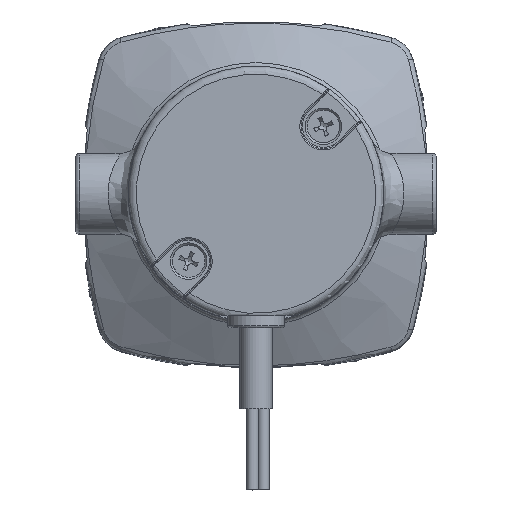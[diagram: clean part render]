
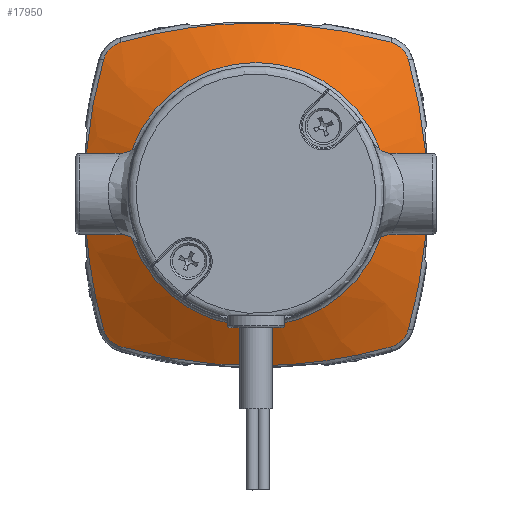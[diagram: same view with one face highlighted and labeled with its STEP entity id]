
A CAD part, top view. The second image highlights one B-rep face of the part: STEP entity #17950.
In plain terms, the highlighted conical face has half-angle 61.049 degrees and reference radius 44.744 mm.
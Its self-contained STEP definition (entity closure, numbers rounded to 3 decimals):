
#17844=CARTESIAN_POINT('',(0.,0.,47.174));
#17845=DIRECTION('',(0.,0.,-1.0));
#17846=DIRECTION('',(1.0,0.0,0.0));
#17847=AXIS2_PLACEMENT_3D('',#17844,#17845,#17846);
#17848=CONICAL_SURFACE('',#17847,44.744,61.049);
#17849=CARTESIAN_POINT('',(37.57,-33.292,44.157));
#17850=VERTEX_POINT('',#17849);
#17851=CARTESIAN_POINT('',(33.292,-37.57,44.157));
#17852=VERTEX_POINT('',#17851);
#17853=CARTESIAN_POINT('',(37.57,-33.292,44.157));
#17854=CARTESIAN_POINT('',(37.329,-34.142,43.944));
#17855=CARTESIAN_POINT('',(36.311,-36.062,43.636));
#17856=CARTESIAN_POINT('',(34.425,-37.249,43.874));
#17857=CARTESIAN_POINT('',(33.292,-37.57,44.157));
#17858=B_SPLINE_CURVE_WITH_KNOTS('',3,(#17853,#17854,#17855,#17856,#17857),.UNSPECIFIED.,.F.,.U.,(4,1,4),(0.,0.269,0.627),.UNSPECIFIED.);
#17859=EDGE_CURVE('',#17850,#17852,#17858,.T.);
#17860=ORIENTED_EDGE('',*,*,#17859,.F.);
#17861=CARTESIAN_POINT('',(37.57,33.292,44.157));
#17862=VERTEX_POINT('',#17861);
#17863=CARTESIAN_POINT('',(37.57,33.292,44.157));
#17864=CARTESIAN_POINT('',(39.281,27.247,45.666));
#17865=CARTESIAN_POINT('',(41.196,17.851,47.521));
#17866=CARTESIAN_POINT('',(42.518,1.656,48.884));
#17867=CARTESIAN_POINT('',(41.841,-14.72,48.16));
#17868=CARTESIAN_POINT('',(39.281,-27.247,45.666));
#17869=CARTESIAN_POINT('',(37.57,-33.292,44.157));
#17870=B_SPLINE_CURVE_WITH_KNOTS('',3,(#17863,#17864,#17865,#17866,#17867,#17868,#17869),.UNSPECIFIED.,.F.,.U.,(4,1,1,1,4),(2.503,4.412,5.367,7.277,9.187),.UNSPECIFIED.);
#17871=EDGE_CURVE('',#17862,#17850,#17870,.T.);
#17872=ORIENTED_EDGE('',*,*,#17871,.F.);
#17873=CARTESIAN_POINT('',(33.292,37.57,44.157));
#17874=VERTEX_POINT('',#17873);
#17875=CARTESIAN_POINT('',(33.292,37.57,44.157));
#17876=CARTESIAN_POINT('',(34.425,37.249,43.874));
#17877=CARTESIAN_POINT('',(36.311,36.062,43.636));
#17878=CARTESIAN_POINT('',(37.329,34.142,43.944));
#17879=CARTESIAN_POINT('',(37.57,33.292,44.157));
#17880=B_SPLINE_CURVE_WITH_KNOTS('',3,(#17875,#17876,#17877,#17878,#17879),.UNSPECIFIED.,.F.,.U.,(4,1,4),(-0.627,-0.269,0.0),.UNSPECIFIED.);
#17881=EDGE_CURVE('',#17874,#17862,#17880,.T.);
#17882=ORIENTED_EDGE('',*,*,#17881,.F.);
#17883=CARTESIAN_POINT('',(-33.292,37.57,44.157));
#17884=VERTEX_POINT('',#17883);
#17885=CARTESIAN_POINT('',(-33.292,37.57,44.157));
#17886=CARTESIAN_POINT('',(-27.247,39.281,45.666));
#17887=CARTESIAN_POINT('',(-14.72,41.841,48.16));
#17888=CARTESIAN_POINT('',(1.656,42.518,48.884));
#17889=CARTESIAN_POINT('',(17.851,41.196,47.521));
#17890=CARTESIAN_POINT('',(27.247,39.281,45.666));
#17891=CARTESIAN_POINT('',(33.292,37.57,44.157));
#17892=B_SPLINE_CURVE_WITH_KNOTS('',3,(#17885,#17886,#17887,#17888,#17889,#17890,#17891),.UNSPECIFIED.,.F.,.U.,(4,1,1,1,4),(2.556,4.466,6.376,7.331,9.24),.UNSPECIFIED.);
#17893=EDGE_CURVE('',#17884,#17874,#17892,.T.);
#17894=ORIENTED_EDGE('',*,*,#17893,.F.);
#17895=CARTESIAN_POINT('',(-37.57,33.292,44.157));
#17896=VERTEX_POINT('',#17895);
#17897=CARTESIAN_POINT('',(-37.57,33.292,44.157));
#17898=CARTESIAN_POINT('',(-37.329,34.142,43.944));
#17899=CARTESIAN_POINT('',(-36.311,36.062,43.636));
#17900=CARTESIAN_POINT('',(-34.425,37.249,43.874));
#17901=CARTESIAN_POINT('',(-33.292,37.57,44.157));
#17902=B_SPLINE_CURVE_WITH_KNOTS('',3,(#17897,#17898,#17899,#17900,#17901),.UNSPECIFIED.,.F.,.U.,(4,1,4),(0.,0.269,0.627),.UNSPECIFIED.);
#17903=EDGE_CURVE('',#17896,#17884,#17902,.T.);
#17904=ORIENTED_EDGE('',*,*,#17903,.F.);
#17905=CARTESIAN_POINT('',(-37.57,-33.292,44.157));
#17906=VERTEX_POINT('',#17905);
#17907=CARTESIAN_POINT('',(-37.57,-33.292,44.157));
#17908=CARTESIAN_POINT('',(-39.281,-27.247,45.666));
#17909=CARTESIAN_POINT('',(-41.841,-14.724,48.16));
#17910=CARTESIAN_POINT('',(-42.653,4.938,49.029));
#17911=CARTESIAN_POINT('',(-40.666,21.051,46.972));
#17912=CARTESIAN_POINT('',(-38.425,30.269,44.911));
#17913=CARTESIAN_POINT('',(-37.57,33.292,44.157));
#17914=B_SPLINE_CURVE_WITH_KNOTS('',3,(#17907,#17908,#17909,#17910,#17911,#17912,#17913),.UNSPECIFIED.,.F.,.U.,(4,1,1,1,4),(2.556,4.466,6.376,8.285,9.24),.UNSPECIFIED.);
#17915=EDGE_CURVE('',#17906,#17896,#17914,.T.);
#17916=ORIENTED_EDGE('',*,*,#17915,.F.);
#17917=CARTESIAN_POINT('',(-33.292,-37.57,44.157));
#17918=VERTEX_POINT('',#17917);
#17919=CARTESIAN_POINT('',(-33.292,-37.57,44.157));
#17920=CARTESIAN_POINT('',(-34.142,-37.329,43.944));
#17921=CARTESIAN_POINT('',(-36.062,-36.311,43.636));
#17922=CARTESIAN_POINT('',(-37.249,-34.425,43.874));
#17923=CARTESIAN_POINT('',(-37.57,-33.292,44.157));
#17924=B_SPLINE_CURVE_WITH_KNOTS('',3,(#17919,#17920,#17921,#17922,#17923),.UNSPECIFIED.,.F.,.U.,(4,1,4),(0.,0.269,0.627),.UNSPECIFIED.);
#17925=EDGE_CURVE('',#17918,#17906,#17924,.T.);
#17926=ORIENTED_EDGE('',*,*,#17925,.F.);
#17927=CARTESIAN_POINT('',(33.292,-37.57,44.157));
#17928=CARTESIAN_POINT('',(27.247,-39.281,45.666));
#17929=CARTESIAN_POINT('',(17.851,-41.196,47.521));
#17930=CARTESIAN_POINT('',(1.656,-42.518,48.884));
#17931=CARTESIAN_POINT('',(-14.72,-41.841,48.16));
#17932=CARTESIAN_POINT('',(-27.247,-39.281,45.666));
#17933=CARTESIAN_POINT('',(-33.292,-37.57,44.157));
#17934=B_SPLINE_CURVE_WITH_KNOTS('',3,(#17927,#17928,#17929,#17930,#17931,#17932,#17933),.UNSPECIFIED.,.F.,.U.,(4,1,1,1,4),(2.556,4.466,5.421,7.331,9.24),.UNSPECIFIED.);
#17935=EDGE_CURVE('',#17852,#17918,#17934,.T.);
#17936=ORIENTED_EDGE('',*,*,#17935,.F.);
#17937=EDGE_LOOP('',(#17860,#17872,#17882,#17894,#17904,#17916,#17926,#17936));
#17938=FACE_OUTER_BOUND('',#17937,.T.);
#17939=CARTESIAN_POINT('',(32.532,0.,53.929));
#17940=VERTEX_POINT('',#17939);
#17941=CARTESIAN_POINT('',(0.,0.,53.929));
#17942=DIRECTION('',(0.0,0.0,1.0));
#17943=DIRECTION('',(-1.0,0.0,0.0));
#17944=AXIS2_PLACEMENT_3D('',#17941,#17942,#17943);
#17945=CIRCLE('',#17944,32.532);
#17946=EDGE_CURVE('',#17940,#17940,#17945,.T.);
#17947=ORIENTED_EDGE('',*,*,#17946,.F.);
#17948=EDGE_LOOP('',(#17947));
#17949=FACE_BOUND('',#17948,.T.);
#17950=ADVANCED_FACE('',(#17938,#17949),#17848,.T.);
